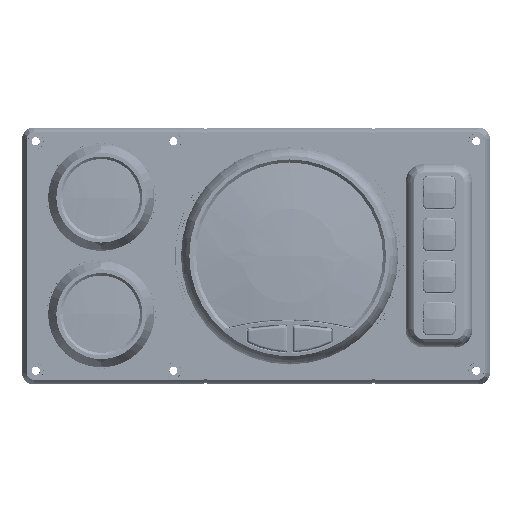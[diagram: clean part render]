
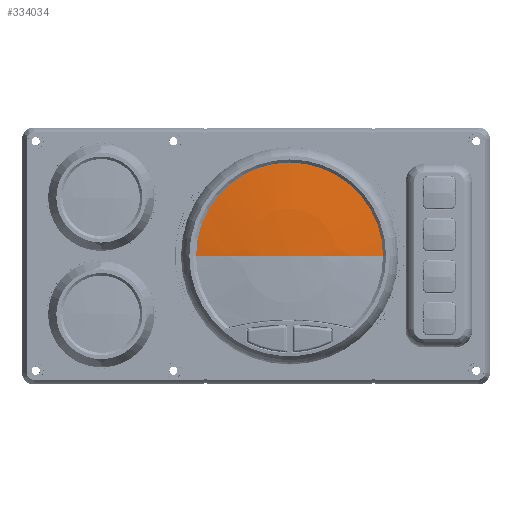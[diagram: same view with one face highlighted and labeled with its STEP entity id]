
A CAD part, top view. The second image highlights one B-rep face of the part: STEP entity #334034.
In plain terms, the highlighted spherical face has radius 388.328 mm.
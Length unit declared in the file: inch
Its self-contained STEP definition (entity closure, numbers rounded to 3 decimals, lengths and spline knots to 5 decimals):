
#330516=CARTESIAN_POINT('',(0.,-14.72851,0.));
#330517=DIRECTION('',(0.,0.,-1.));
#330518=DIRECTION('',(0.,1.,0.));
#330519=AXIS2_PLACEMENT_3D('',#330516,#330517,#330518);
#330576=CARTESIAN_POINT('',(0.,0.42732,0.));
#330577=DIRECTION('',(0.,-1.,0.));
#330578=DIRECTION('',(-1.,0.,0.));
#330579=AXIS2_PLACEMENT_3D('',#330576,#330577,#330578);
#330581=CARTESIAN_POINT('',(0.,0.42732,0.));
#330582=DIRECTION('',(0.,-1.,0.));
#330583=DIRECTION('',(-1.,0.,-0.005));
#330584=AXIS2_PLACEMENT_3D('',#330581,#330582,#330583);
#330586=CARTESIAN_POINT('',(0.,-14.72851,0.));
#330587=DIRECTION('',(0.,0.,1.));
#330588=DIRECTION('',(0.,1.,0.));
#330589=AXIS2_PLACEMENT_3D('',#330586,#330587,#330588);
#333250=CARTESIAN_POINT('',(-2.00978,0.42732,0.));
#333251=VERTEX_POINT('',#333250);
#333252=CARTESIAN_POINT('',(0.,0.56,0.));
#333253=VERTEX_POINT('',#333252);
#333254=CARTESIAN_POINT('',(2.00978,0.42732,0.));
#333255=VERTEX_POINT('',#333254);
#333263=CARTESIAN_POINT('',(-2.00976,0.42732,
-0.00953));
#333264=VERTEX_POINT('',#333263);
#334023=CARTESIAN_POINT('',(0.,-14.72851,0.));
#334024=DIRECTION('',(0.,-1.,0.));
#334025=DIRECTION('',(-1.,0.,0.));
#334026=AXIS2_PLACEMENT_3D('',#334023,#334024,#334025);
#334027=SPHERICAL_SURFACE('',#334026,15.28851);
#334028=ORIENTED_EDGE('',*,*,#334005,.T.);
#334029=ORIENTED_EDGE('',*,*,#334003,.T.);
#334030=ORIENTED_EDGE('',*,*,#333796,.F.);
#334031=ORIENTED_EDGE('',*,*,#333794,.T.);
#334032=EDGE_LOOP('',(#334028,#334029,#334030,#334031));
#334033=FACE_OUTER_BOUND('',#334032,.F.);
#334034=ADVANCED_FACE('',(#334033),#334027,.T.);
#330520=CIRCLE('',#330519,15.28851);
#330580=CIRCLE('',#330579,2.00978);
#330585=CIRCLE('',#330584,2.00978);
#330590=CIRCLE('',#330589,15.28851);
#333794=EDGE_CURVE('',#333253,#333251,#330590,.T.);
#333796=EDGE_CURVE('',#333253,#333255,#330520,.T.);
#334003=EDGE_CURVE('',#333264,#333255,#330585,.T.);
#334005=EDGE_CURVE('',#333251,#333264,#330580,.T.);
